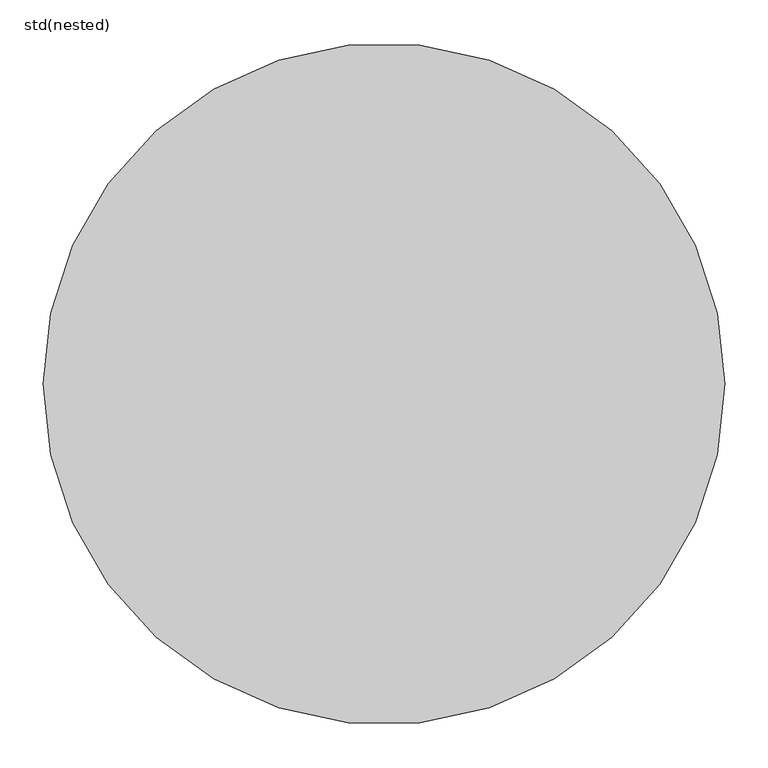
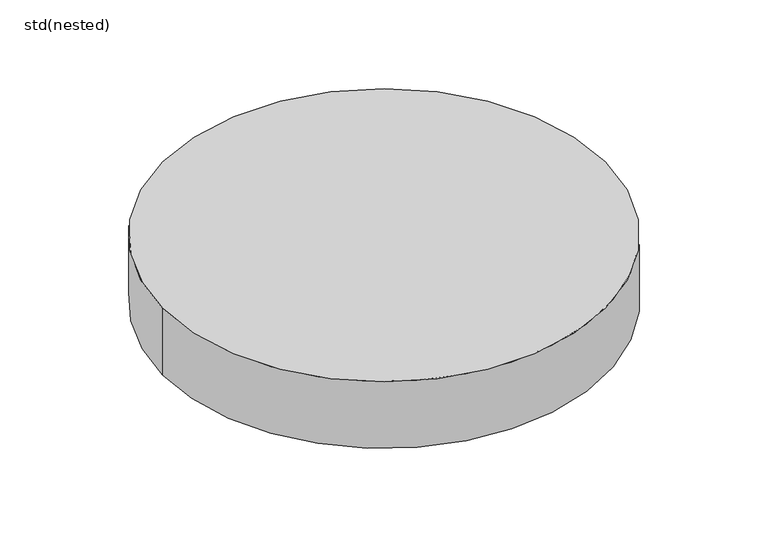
"""IFC4 building model written with IfcOpenShell, lengths in millimetres: unitary equipment geometry, ZZZ_do not use_ME_ST_WPB_manhole covers_ACO : std(nested)."""

from ifc_helpers import new_model, si_unit, point, frame, origin, origin_2d, place, context, project, spatial, circle_curve, trimmed, segment, composite_curve, outline, extrude, source, transform, mapped, element, save


def std_nested_d4eab2f7(model_context):
    return source(origin(), model_context, "Body", "SweptSolid", [
        extrude(outline(composite_curve([segment(trimmed(circle_curve(origin_2d(), 392.5), [point((-392.5, 0.0))], [point((392.5, 0.0))], False, "CARTESIAN"), True, "CONTINUOUS"), segment(trimmed(circle_curve(origin_2d(), 392.5), [point((392.5, 0.0))], [point((-392.5, 0.0))], False, "CARTESIAN"), True, "CONTINUOUS")], self_intersect=False)), frame((0.0, 0.0, -125.0), z_axis=(0.0, 0.0, 1.0), x_axis=(1.0, 0.0, 0.0)), (0.0, 0.0, 1.0), 125.0),
    ])


if __name__ == "__main__":
    model = new_model("IFC4")
    model_context = context("Model", 3, world=origin())
    ifc_project = project(units=[si_unit("LENGTHUNIT", "METRE", prefix="MILLI")], contexts=[model_context])
    site = spatial("IfcSite", under=ifc_project)
    building = spatial("IfcBuilding", under=site)
    placement = place(None, origin())
    std_nested_shape = std_nested_d4eab2f7(model_context)
    element("IfcUnitaryEquipment", 1, ObjectType="ZZZ_do not use_ME_ST_WPB_manhole covers_ACO : std(nested)", at=placement, inside=building, context=model_context, shape_type="MappedRepresentation", body=[
        mapped(std_nested_shape, transform((0.0, 0.0, 0.0), x_axis=(1.0, 0.0, 0.0), y_axis=(0.0, 1.0, 0.0), z_axis=(0.0, 0.0, 1.0))),
    ])
    save(model, "model.ifc")
